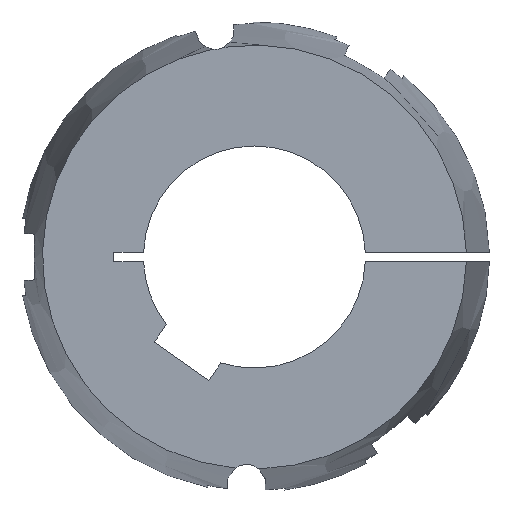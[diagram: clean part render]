
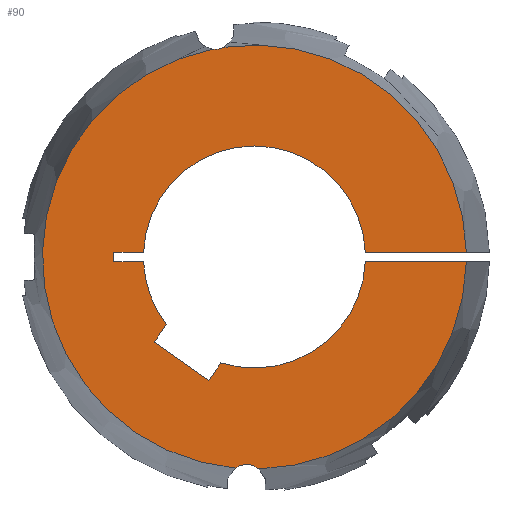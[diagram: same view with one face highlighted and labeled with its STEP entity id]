
A CAD part, left-side view. The second image highlights one B-rep face of the part: STEP entity #90.
In plain terms, the highlighted planar face has unit normal (-1, 0, 0).
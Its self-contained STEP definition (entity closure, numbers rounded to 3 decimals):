
#90 = ADVANCED_FACE( '', ( #140 ), #141, .F. );
#140 = FACE_OUTER_BOUND( '', #208, .T. );
#141 = PLANE( '', #209 );
#208 = EDGE_LOOP( '', ( #369, #370, #371, #372, #373, #374, #375, #376, #377, #378, #379, #380, #381, #382, #383, #384 ) );
#209 = AXIS2_PLACEMENT_3D( '', #385, #386, #387 );
#369 = ORIENTED_EDGE( '', *, *, #548, .F. );
#370 = ORIENTED_EDGE( '', *, *, #601, .F. );
#371 = ORIENTED_EDGE( '', *, *, #570, .T. );
#372 = ORIENTED_EDGE( '', *, *, #583, .T. );
#373 = ORIENTED_EDGE( '', *, *, #581, .T. );
#374 = ORIENTED_EDGE( '', *, *, #578, .T. );
#375 = ORIENTED_EDGE( '', *, *, #587, .T. );
#376 = ORIENTED_EDGE( '', *, *, #602, .T. );
#377 = ORIENTED_EDGE( '', *, *, #603, .T. );
#378 = ORIENTED_EDGE( '', *, *, #604, .T. );
#379 = ORIENTED_EDGE( '', *, *, #605, .T. );
#380 = ORIENTED_EDGE( '', *, *, #606, .T. );
#381 = ORIENTED_EDGE( '', *, *, #572, .T. );
#382 = ORIENTED_EDGE( '', *, *, #607, .F. );
#383 = ORIENTED_EDGE( '', *, *, #551, .F. );
#384 = ORIENTED_EDGE( '', *, *, #608, .F. );
#385 = CARTESIAN_POINT( '', ( -89., 0., 0. ) );
#386 = DIRECTION( '', ( 1., 0., 0. ) );
#387 = DIRECTION( '', ( 0., 1., 0. ) );
#548 = EDGE_CURVE( '', #649, #651, #652, .F. );
#551 = EDGE_CURVE( '', #655, #657, #658, .F. );
#570 = EDGE_CURVE( '', #693, #691, #694, .T. );
#572 = EDGE_CURVE( '', #696, #697, #698, .T. );
#578 = EDGE_CURVE( '', #709, #707, #710, .T. );
#581 = EDGE_CURVE( '', #714, #709, #715, .T. );
#583 = EDGE_CURVE( '', #691, #714, #717, .T. );
#587 = EDGE_CURVE( '', #707, #721, #723, .T. );
#601 = EDGE_CURVE( '', #693, #649, #745, .T. );
#602 = EDGE_CURVE( '', #721, #746, #747, .T. );
#603 = EDGE_CURVE( '', #746, #748, #749, .T. );
#604 = EDGE_CURVE( '', #748, #750, #751, .T. );
#605 = EDGE_CURVE( '', #750, #752, #753, .T. );
#606 = EDGE_CURVE( '', #752, #696, #754, .T. );
#607 = EDGE_CURVE( '', #657, #697, #755, .T. );
#608 = EDGE_CURVE( '', #651, #655, #756, .T. );
#649 = VERTEX_POINT( '', #815 );
#651 = VERTEX_POINT( '', #828 );
#652 = CIRCLE( '', #829, 5.25 );
#655 = VERTEX_POINT( '', #843 );
#657 = VERTEX_POINT( '', #861 );
#658 = CIRCLE( '', #862, 5.25 );
#691 = VERTEX_POINT( '', #935 );
#693 = VERTEX_POINT( '', #938 );
#694 = LINE( '', #939, #940 );
#696 = VERTEX_POINT( '', #948 );
#697 = VERTEX_POINT( '', #949 );
#698 = LINE( '', #950, #951 );
#707 = VERTEX_POINT( '', #969 );
#709 = VERTEX_POINT( '', #972 );
#710 = LINE( '', #973, #974 );
#714 = VERTEX_POINT( '', #980 );
#715 = LINE( '', #981, #982 );
#717 = CIRCLE( '', #985, 30. );
#721 = VERTEX_POINT( '', #990 );
#723 = LINE( '', #993, #994 );
#745 = CIRCLE( '', #1019, 57.277 );
#746 = VERTEX_POINT( '', #1020 );
#747 = CIRCLE( '', #1021, 30. );
#748 = VERTEX_POINT( '', #1022 );
#749 = LINE( '', #1023, #1024 );
#750 = VERTEX_POINT( '', #1025 );
#751 = LINE( '', #1026, #1027 );
#752 = VERTEX_POINT( '', #1028 );
#753 = LINE( '', #1029, #1030 );
#754 = CIRCLE( '', #1031, 30. );
#755 = CIRCLE( '', #1032, 57.277 );
#756 = CIRCLE( '', #1033, 57.277 );
#815 = CARTESIAN_POINT( '', ( -89., -1.169, -57.265 ) );
#828 = CARTESIAN_POINT( '', ( -89., 5.158, -57.044 ) );
#829 = AXIS2_PLACEMENT_3D( '', #1193, #1194, #1195 );
#843 = CARTESIAN_POINT( '', ( -89., 11.362, 56.138 ) );
#861 = CARTESIAN_POINT( '', ( -89., 8.229, 56.682 ) );
#862 = AXIS2_PLACEMENT_3D( '', #1196, #1197, #1198 );
#935 = CARTESIAN_POINT( '', ( -89., -29.974, -1.25 ) );
#938 = CARTESIAN_POINT( '', ( -89., -57.263, -1.25 ) );
#939 = CARTESIAN_POINT( '', ( -89., -63.5, -1.25 ) );
#940 = VECTOR( '', #1228, 1000. );
#948 = CARTESIAN_POINT( '', ( -89., -29.974, 1.25 ) );
#949 = CARTESIAN_POINT( '', ( -89., -57.263, 1.25 ) );
#950 = CARTESIAN_POINT( '', ( -89., 0., 1.25 ) );
#951 = VECTOR( '', #1229, 1000. );
#969 = CARTESIAN_POINT( '', ( -89., 27.103, -23.017 ) );
#972 = CARTESIAN_POINT( '', ( -89., 12.359, -33.341 ) );
#973 = CARTESIAN_POINT( '', ( -89., 12.359, -33.341 ) );
#974 = VECTOR( '', #1234, 1000. );
#980 = CARTESIAN_POINT( '', ( -89., 9.042, -28.605 ) );
#981 = CARTESIAN_POINT( '', ( -89., 9.042, -28.605 ) );
#982 = VECTOR( '', #1237, 1000. );
#985 = AXIS2_PLACEMENT_3D( '', #1239, #1240, #1241 );
#990 = CARTESIAN_POINT( '', ( -89., 23.787, -18.28 ) );
#993 = CARTESIAN_POINT( '', ( -89., 27.103, -23.017 ) );
#994 = VECTOR( '', #1247, 1000. );
#1019 = AXIS2_PLACEMENT_3D( '', #1281, #1282, #1283 );
#1020 = CARTESIAN_POINT( '', ( -89., 29.974, -1.25 ) );
#1021 = AXIS2_PLACEMENT_3D( '', #1284, #1285, #1286 );
#1022 = CARTESIAN_POINT( '', ( -89., 38., -1.25 ) );
#1023 = CARTESIAN_POINT( '', ( -89., 0., -1.25 ) );
#1024 = VECTOR( '', #1287, 1000. );
#1025 = CARTESIAN_POINT( '', ( -89., 38., 1.25 ) );
#1026 = CARTESIAN_POINT( '', ( -89., 38., -1.25 ) );
#1027 = VECTOR( '', #1288, 1000. );
#1028 = CARTESIAN_POINT( '', ( -89., 29.974, 1.25 ) );
#1029 = CARTESIAN_POINT( '', ( -89., 38., 1.25 ) );
#1030 = VECTOR( '', #1289, 1000. );
#1031 = AXIS2_PLACEMENT_3D( '', #1290, #1291, #1292 );
#1032 = AXIS2_PLACEMENT_3D( '', #1293, #1294, #1295 );
#1033 = AXIS2_PLACEMENT_3D( '', #1296, #1297, #1298 );
#1193 = CARTESIAN_POINT( '', ( -89., 2.141, -61.34 ) );
#1194 = DIRECTION( '', ( 1., 0., 0. ) );
#1195 = DIRECTION( '', ( 0., 1., 0. ) );
#1196 = CARTESIAN_POINT( '', ( -89., 10.652, 61.34 ) );
#1197 = DIRECTION( '', ( 1., 0., 0. ) );
#1198 = DIRECTION( '', ( 0., 1., 0. ) );
#1228 = DIRECTION( '', ( 0., 1., 0. ) );
#1229 = DIRECTION( '', ( 0., -1., 0. ) );
#1234 = DIRECTION( '', ( 0., 0.819, 0.574 ) );
#1237 = DIRECTION( '', ( 0., 0.574, -0.819 ) );
#1239 = CARTESIAN_POINT( '', ( -89., 0., 0. ) );
#1240 = DIRECTION( '', ( 1., 0., 0. ) );
#1241 = DIRECTION( '', ( 0., 0., -1. ) );
#1247 = DIRECTION( '', ( 0., -0.574, 0.819 ) );
#1281 = CARTESIAN_POINT( '', ( -89., 0., 0. ) );
#1282 = DIRECTION( '', ( 1., 0., 0. ) );
#1283 = DIRECTION( '', ( 0., 1., 0. ) );
#1284 = CARTESIAN_POINT( '', ( -89., 0., 0. ) );
#1285 = DIRECTION( '', ( 1., 0., 0. ) );
#1286 = DIRECTION( '', ( 0., 0., -1. ) );
#1287 = DIRECTION( '', ( 0., 1., 0. ) );
#1288 = DIRECTION( '', ( 0., 0., 1. ) );
#1289 = DIRECTION( '', ( 0., -1., 0. ) );
#1290 = CARTESIAN_POINT( '', ( -89., 0., 0. ) );
#1291 = DIRECTION( '', ( 1., 0., 0. ) );
#1292 = DIRECTION( '', ( 0., 0., -1. ) );
#1293 = CARTESIAN_POINT( '', ( -89., 0., 0. ) );
#1294 = DIRECTION( '', ( 1., 0., 0. ) );
#1295 = DIRECTION( '', ( 0., 1., 0. ) );
#1296 = CARTESIAN_POINT( '', ( -89., 0., 0. ) );
#1297 = DIRECTION( '', ( 1., 0., 0. ) );
#1298 = DIRECTION( '', ( 0., 1., 0. ) );
